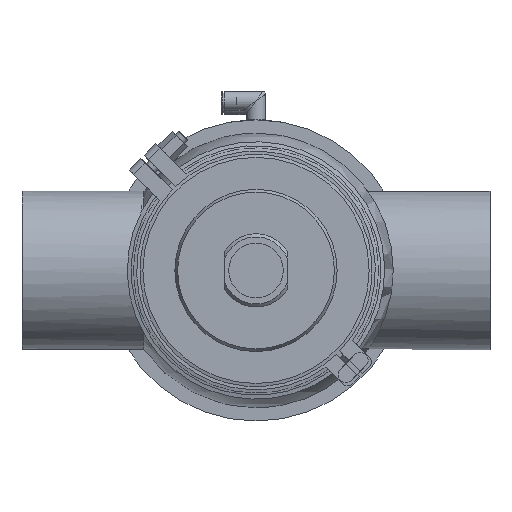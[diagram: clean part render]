
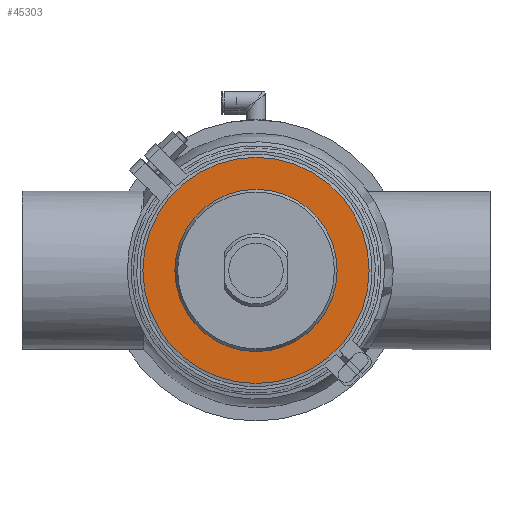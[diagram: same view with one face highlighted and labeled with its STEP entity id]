
A CAD part, front view. The second image highlights one B-rep face of the part: STEP entity #45303.
In plain terms, the highlighted planar face has unit normal (0, -1, 0).
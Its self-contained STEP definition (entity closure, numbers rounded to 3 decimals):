
#3093 = DIRECTION ( 'NONE',  ( 0., 0., 1. ) ) ;
#6458 = CARTESIAN_POINT ( 'NONE',  ( -72.5, -13., 0. ) ) ;
#16690 = VERTEX_POINT ( 'NONE', #60213 ) ;
#17085 = CIRCLE ( 'NONE', #55958, 72.5 ) ;
#20459 = VERTEX_POINT ( 'NONE', #49253 ) ;
#20849 = DIRECTION ( 'NONE',  ( 0., 0., -1. ) ) ;
#21695 = CARTESIAN_POINT ( 'NONE',  ( 0., -13., 0. ) ) ;
#22375 = EDGE_CURVE ( 'NONE', #16690, #16690, #17085, .T. ) ;
#24990 = DIRECTION ( 'NONE',  ( 0., -1., 0. ) ) ;
#25312 = FACE_OUTER_BOUND ( 'NONE', #43677, .T. ) ;
#28015 = EDGE_CURVE ( 'NONE', #20459, #20459, #34281, .T. ) ;
#29481 = PLANE ( 'NONE',  #43015 ) ;
#32769 = DIRECTION ( 'NONE',  ( 0., 0., 1. ) ) ;
#34281 = CIRCLE ( 'NONE', #56821, 52. ) ;
#42685 = DIRECTION ( 'NONE',  ( 0., 1., 0. ) ) ;
#43015 = AXIS2_PLACEMENT_3D ( 'NONE', #6458, #24990, #20849 ) ;
#43677 = EDGE_LOOP ( 'NONE', ( #63080 ) ) ;
#43764 = ORIENTED_EDGE ( 'NONE', *, *, #28015, .T. ) ;
#45303 = ADVANCED_FACE ( 'NONE', ( #50287, #25312 ), #29481, .T. ) ;
#49253 = CARTESIAN_POINT ( 'NONE',  ( 0., -13., 52. ) ) ;
#50287 = FACE_BOUND ( 'NONE', #50341, .T. ) ;
#50341 = EDGE_LOOP ( 'NONE', ( #43764 ) ) ;
#55958 = AXIS2_PLACEMENT_3D ( 'NONE', #61901, #42685, #32769 ) ;
#56821 = AXIS2_PLACEMENT_3D ( 'NONE', #21695, #56866, #3093 ) ;
#56866 = DIRECTION ( 'NONE',  ( 0., 1., 0. ) ) ;
#60213 = CARTESIAN_POINT ( 'NONE',  ( 0., -13., 72.5 ) ) ;
#61901 = CARTESIAN_POINT ( 'NONE',  ( 0., -13., 0. ) ) ;
#63080 = ORIENTED_EDGE ( 'NONE', *, *, #22375, .F. ) ;
